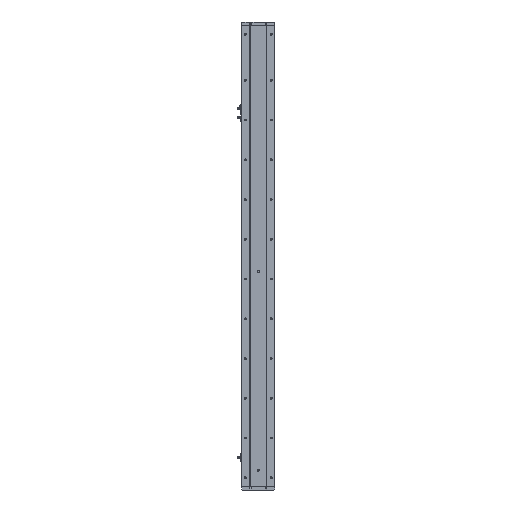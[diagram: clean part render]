
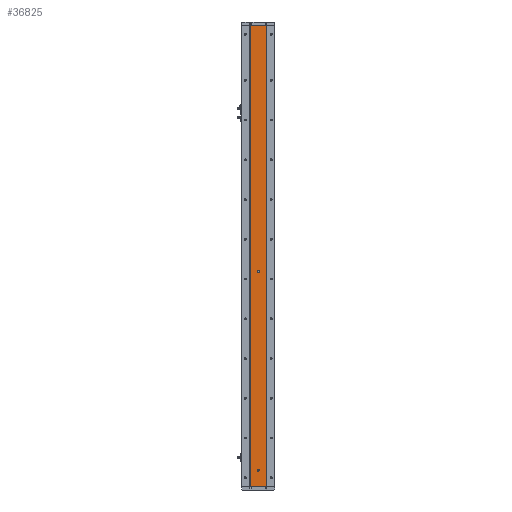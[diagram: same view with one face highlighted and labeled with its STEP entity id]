
A CAD part, left-side view. The second image highlights one B-rep face of the part: STEP entity #36825.
In plain terms, the highlighted planar face has unit normal (-1, 0, 0).
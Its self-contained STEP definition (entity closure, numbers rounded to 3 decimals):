
#213 = EDGE_CURVE ( 'NONE', #6730, #35310, #37315, .T. ) ;
#2205 = CIRCLE ( 'NONE', #12407, 3. ) ;
#2577 = DIRECTION ( 'NONE',  ( 0., 0., 1. ) ) ;
#2657 = EDGE_CURVE ( 'NONE', #23049, #27438, #14546, .T. ) ;
#3450 = EDGE_LOOP ( 'NONE', ( #21325, #34390 ) ) ;
#3520 = DIRECTION ( 'NONE',  ( -1., 0., 0. ) ) ;
#4850 = EDGE_CURVE ( 'NONE', #31590, #37055, #21534, .T. ) ;
#4855 = CIRCLE ( 'NONE', #36760, 3. ) ;
#5278 = VECTOR ( 'NONE', #35747, 1000. ) ;
#5424 = CIRCLE ( 'NONE', #24903, 3. ) ;
#6730 = VERTEX_POINT ( 'NONE', #37065 ) ;
#7269 = EDGE_LOOP ( 'NONE', ( #39366, #23964, #41505, #17392 ) ) ;
#8318 = CARTESIAN_POINT ( 'NONE',  ( -18.926, -24.785, 1393. ) ) ;
#12407 = AXIS2_PLACEMENT_3D ( 'NONE', #24396, #3520, #27887 ) ;
#12754 = CARTESIAN_POINT ( 'NONE',  ( -18.926, 0., 50. ) ) ;
#13641 = FACE_BOUND ( 'NONE', #3450, .T. ) ;
#14546 = LINE ( 'NONE', #42700, #5278 ) ;
#15121 = CARTESIAN_POINT ( 'NONE',  ( -18.926, 24.785, 1393. ) ) ;
#15494 = PLANE ( 'NONE',  #39615 ) ;
#15630 = DIRECTION ( 'NONE',  ( 1., 0., 0. ) ) ;
#16254 = DIRECTION ( 'NONE',  ( 0., 0., 1. ) ) ;
#17392 = ORIENTED_EDGE ( 'NONE', *, *, #26938, .T. ) ;
#17690 = CARTESIAN_POINT ( 'NONE',  ( -18.926, 0., 650. ) ) ;
#18766 = ORIENTED_EDGE ( 'NONE', *, *, #213, .F. ) ;
#18943 = CARTESIAN_POINT ( 'NONE',  ( -18.926, 0., 647. ) ) ;
#20395 = EDGE_CURVE ( 'NONE', #42711, #36277, #5424, .T. ) ;
#21175 = DIRECTION ( 'NONE',  ( 0., 0., 1. ) ) ;
#21325 = ORIENTED_EDGE ( 'NONE', *, *, #30204, .F. ) ;
#21534 = LINE ( 'NONE', #15121, #37908 ) ;
#21852 = DIRECTION ( 'NONE',  ( 0., 0., -1. ) ) ;
#22008 = CARTESIAN_POINT ( 'NONE',  ( -18.926, 24.785, 1393. ) ) ;
#23049 = VERTEX_POINT ( 'NONE', #25060 ) ;
#23480 = DIRECTION ( 'NONE',  ( -1., 0., 0. ) ) ;
#23964 = ORIENTED_EDGE ( 'NONE', *, *, #24708, .F. ) ;
#24396 = CARTESIAN_POINT ( 'NONE',  ( -18.926, 0., 50. ) ) ;
#24708 = EDGE_CURVE ( 'NONE', #37055, #27438, #27752, .T. ) ;
#24903 = AXIS2_PLACEMENT_3D ( 'NONE', #17690, #42044, #21175 ) ;
#25060 = CARTESIAN_POINT ( 'NONE',  ( -18.926, 24.785, 0. ) ) ;
#25903 = CARTESIAN_POINT ( 'NONE',  ( -18.926, 0., 653. ) ) ;
#26938 = EDGE_CURVE ( 'NONE', #31590, #23049, #27626, .T. ) ;
#27438 = VERTEX_POINT ( 'NONE', #43860 ) ;
#27626 = LINE ( 'NONE', #22008, #36932 ) ;
#27752 = LINE ( 'NONE', #8318, #37047 ) ;
#27887 = DIRECTION ( 'NONE',  ( 0., 0., 1. ) ) ;
#28776 = EDGE_CURVE ( 'NONE', #35310, #6730, #2205, .T. ) ;
#29199 = DIRECTION ( 'NONE',  ( 0., 0., -1. ) ) ;
#29215 = ORIENTED_EDGE ( 'NONE', *, *, #28776, .F. ) ;
#30204 = EDGE_CURVE ( 'NONE', #36277, #42711, #4855, .T. ) ;
#30478 = CARTESIAN_POINT ( 'NONE',  ( -18.926, 0., 53. ) ) ;
#30575 = CARTESIAN_POINT ( 'NONE',  ( -18.926, 24.785, 1393. ) ) ;
#31590 = VERTEX_POINT ( 'NONE', #30575 ) ;
#34390 = ORIENTED_EDGE ( 'NONE', *, *, #20395, .F. ) ;
#35310 = VERTEX_POINT ( 'NONE', #30478 ) ;
#35476 = EDGE_LOOP ( 'NONE', ( #29215, #18766 ) ) ;
#35747 = DIRECTION ( 'NONE',  ( 0., -1., 0. ) ) ;
#36023 = DIRECTION ( 'NONE',  ( 0., -1., 0. ) ) ;
#36277 = VERTEX_POINT ( 'NONE', #25903 ) ;
#36541 = CARTESIAN_POINT ( 'NONE',  ( -18.926, 24.785, 1393. ) ) ;
#36760 = AXIS2_PLACEMENT_3D ( 'NONE', #44318, #23480, #2577 ) ;
#36825 = ADVANCED_FACE ( 'NONE', ( #13641, #41469, #39296 ), #15494, .F. ) ;
#36932 = VECTOR ( 'NONE', #21852, 1000. ) ;
#37047 = VECTOR ( 'NONE', #29199, 1000. ) ;
#37055 = VERTEX_POINT ( 'NONE', #39257 ) ;
#37065 = CARTESIAN_POINT ( 'NONE',  ( -18.926, 0., 47. ) ) ;
#37169 = DIRECTION ( 'NONE',  ( -1., 0., 0. ) ) ;
#37315 = CIRCLE ( 'NONE', #44544, 3. ) ;
#37908 = VECTOR ( 'NONE', #36023, 1000. ) ;
#39257 = CARTESIAN_POINT ( 'NONE',  ( -18.926, -24.785, 1393. ) ) ;
#39296 = FACE_OUTER_BOUND ( 'NONE', #7269, .T. ) ;
#39366 = ORIENTED_EDGE ( 'NONE', *, *, #2657, .T. ) ;
#39615 = AXIS2_PLACEMENT_3D ( 'NONE', #36541, #15630, #40034 ) ;
#40034 = DIRECTION ( 'NONE',  ( 0., 0., -1. ) ) ;
#41469 = FACE_BOUND ( 'NONE', #35476, .T. ) ;
#41505 = ORIENTED_EDGE ( 'NONE', *, *, #4850, .F. ) ;
#42044 = DIRECTION ( 'NONE',  ( -1., 0., 0. ) ) ;
#42700 = CARTESIAN_POINT ( 'NONE',  ( -18.926, 24.785, 0. ) ) ;
#42711 = VERTEX_POINT ( 'NONE', #18943 ) ;
#43860 = CARTESIAN_POINT ( 'NONE',  ( -18.926, -24.785, 0. ) ) ;
#44318 = CARTESIAN_POINT ( 'NONE',  ( -18.926, 0., 650. ) ) ;
#44544 = AXIS2_PLACEMENT_3D ( 'NONE', #12754, #37169, #16254 ) ;
